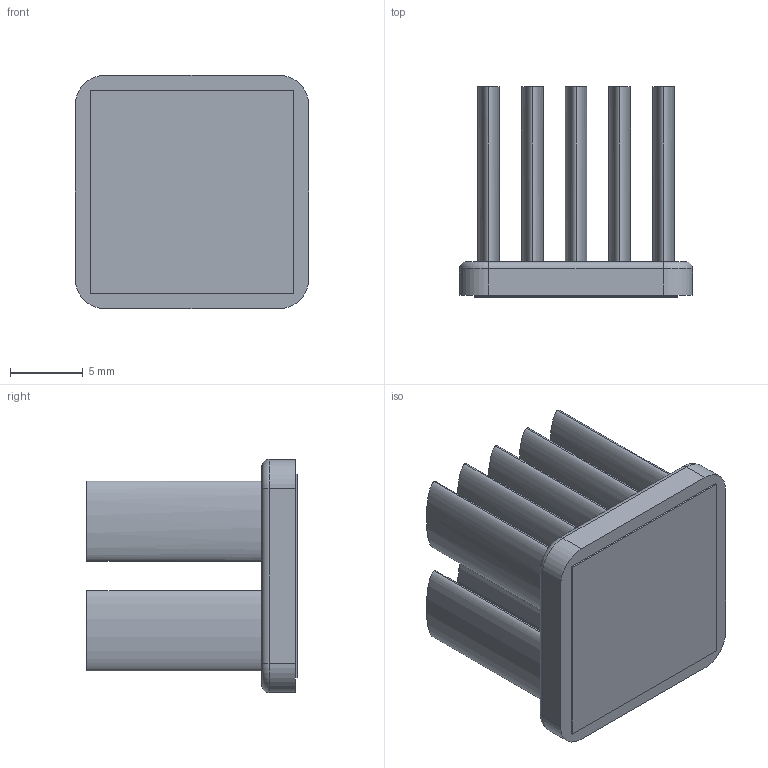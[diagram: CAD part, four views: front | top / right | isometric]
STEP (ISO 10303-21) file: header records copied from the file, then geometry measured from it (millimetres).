
FILE_DESCRIPTION (( 'STEP AP214' ), '1' );
FILE_NAME ('INM16001-14W-2.3.STEP', '2023-03-29T23:20:50', ( '' ), ( '' ), 'SwSTEP 2.0', 'SolidWorks 2020', '' );
FILE_SCHEMA (( 'AUTOMOTIVE_DESIGN' ));
Length unit declared in the file: millimetre
Products named in the file (1): INM16001-14W-2.3
Bounding box: 16 x 14.43 x 16 mm (x, y, z)
Volume: 1380.1 mm3; surface area: 2459.8 mm2
Topology: 2 solids, 2 shells, 54 faces, 112 edges, 72 vertices
Faces by surface type: plane 22, bspline 20, cylinder 8, torus 4
Entity records: 2109 total; most frequent: CARTESIAN_POINT 499, ORIENTED_EDGE 224, DIRECTION 162, EDGE_CURVE 112, VERTEX_POINT 72, EDGE_LOOP 64, UNCERTAINTY_MEASURE_WITH_UNIT 58, SURFACE_SIDE_STYLE 57
